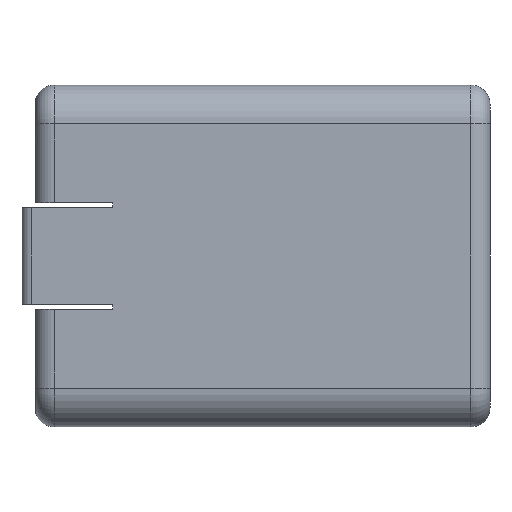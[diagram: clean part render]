
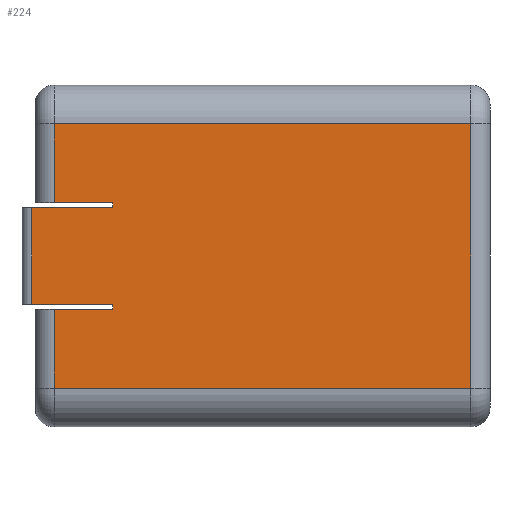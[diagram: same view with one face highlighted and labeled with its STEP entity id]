
A CAD part, front view. The second image highlights one B-rep face of the part: STEP entity #224.
In plain terms, the highlighted planar face has unit normal (0, -1, 0).
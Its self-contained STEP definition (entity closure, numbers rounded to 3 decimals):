
#2 = ORIENTED_EDGE ( 'NONE', *, *, #2229, .T. ) ;
#4 = VECTOR ( 'NONE', #1922, 1000. ) ;
#10 = CARTESIAN_POINT ( 'NONE',  ( 8.064, -15.15, -5. ) ) ;
#41 = AXIS2_PLACEMENT_3D ( 'NONE', #698, #846, #110 ) ;
#66 = VERTEX_POINT ( 'NONE', #239 ) ;
#79 = VECTOR ( 'NONE', #205, 1000. ) ;
#100 = CARTESIAN_POINT ( 'NONE',  ( 46., -15.15, 13.65 ) ) ;
#110 = DIRECTION ( 'NONE',  ( 0., 0., 1. ) ) ;
#117 = DIRECTION ( 'NONE',  ( 0., 0., -1. ) ) ;
#183 = DIRECTION ( 'NONE',  ( -1., 0., 0. ) ) ;
#195 = VECTOR ( 'NONE', #1703, 1000. ) ;
#205 = DIRECTION ( 'NONE',  ( -1., 0., 0. ) ) ;
#224 = ADVANCED_FACE ( 'NONE', ( #865 ), #457, .F. ) ;
#239 = CARTESIAN_POINT ( 'NONE',  ( 2., -15.15, -13.65 ) ) ;
#248 = VECTOR ( 'NONE', #487, 1000. ) ;
#279 = EDGE_CURVE ( 'NONE', #2256, #499, #1870, .T. ) ;
#309 = ORIENTED_EDGE ( 'NONE', *, *, #2440, .T. ) ;
#320 = VERTEX_POINT ( 'NONE', #554 ) ;
#325 = LINE ( 'NONE', #2264, #248 ) ;
#329 = ORIENTED_EDGE ( 'NONE', *, *, #1542, .T. ) ;
#331 = LINE ( 'NONE', #680, #2322 ) ;
#365 = LINE ( 'NONE', #1756, #699 ) ;
#371 = ORIENTED_EDGE ( 'NONE', *, *, #1303, .T. ) ;
#377 = EDGE_CURVE ( 'NONE', #1326, #1760, #942, .T. ) ;
#382 = CARTESIAN_POINT ( 'NONE',  ( 2., -15.15, -5.5 ) ) ;
#389 = CARTESIAN_POINT ( 'NONE',  ( 8.064, -15.15, -5.5 ) ) ;
#399 = LINE ( 'NONE', #2205, #79 ) ;
#403 = LINE ( 'NONE', #1568, #2228 ) ;
#445 = ORIENTED_EDGE ( 'NONE', *, *, #1635, .T. ) ;
#457 = PLANE ( 'NONE',  #41 ) ;
#480 = VERTEX_POINT ( 'NONE', #10 ) ;
#487 = DIRECTION ( 'NONE',  ( 0., 0., -1. ) ) ;
#499 = VERTEX_POINT ( 'NONE', #2375 ) ;
#548 = VERTEX_POINT ( 'NONE', #382 ) ;
#550 = LINE ( 'NONE', #1350, #977 ) ;
#554 = CARTESIAN_POINT ( 'NONE',  ( 45., -15.15, -13.65 ) ) ;
#576 = ORIENTED_EDGE ( 'NONE', *, *, #279, .T. ) ;
#602 = EDGE_CURVE ( 'NONE', #320, #2256, #403, .T. ) ;
#680 = CARTESIAN_POINT ( 'NONE',  ( 2., -15.15, -13.65 ) ) ;
#698 = CARTESIAN_POINT ( 'NONE',  ( 46., -15.15, 17.65 ) ) ;
#699 = VECTOR ( 'NONE', #183, 1000. ) ;
#718 = CARTESIAN_POINT ( 'NONE',  ( 2., -15.15, 5.5 ) ) ;
#735 = EDGE_LOOP ( 'NONE', ( #957, #2, #445, #329, #309, #1774, #371, #1288, #576, #2458, #1994, #1174 ) ) ;
#762 = CARTESIAN_POINT ( 'NONE',  ( 46., -15.15, 5.5 ) ) ;
#783 = EDGE_CURVE ( 'NONE', #499, #1326, #911, .T. ) ;
#846 = DIRECTION ( 'NONE',  ( 0., 1., 0. ) ) ;
#859 = EDGE_CURVE ( 'NONE', #1760, #2310, #550, .T. ) ;
#865 = FACE_OUTER_BOUND ( 'NONE', #735, .T. ) ;
#911 = LINE ( 'NONE', #1907, #1983 ) ;
#942 = LINE ( 'NONE', #762, #195 ) ;
#956 = VERTEX_POINT ( 'NONE', #2491 ) ;
#957 = ORIENTED_EDGE ( 'NONE', *, *, #978, .T. ) ;
#970 = VECTOR ( 'NONE', #2427, 1000. ) ;
#977 = VECTOR ( 'NONE', #1293, 1000. ) ;
#978 = EDGE_CURVE ( 'NONE', #2310, #956, #399, .T. ) ;
#1006 = CARTESIAN_POINT ( 'NONE',  ( 8.064, -15.15, 5.5 ) ) ;
#1048 = LINE ( 'NONE', #1980, #4 ) ;
#1080 = CARTESIAN_POINT ( 'NONE',  ( 8.064, -15.15, 5. ) ) ;
#1132 = LINE ( 'NONE', #1875, #1604 ) ;
#1174 = ORIENTED_EDGE ( 'NONE', *, *, #859, .T. ) ;
#1188 = DIRECTION ( 'NONE',  ( 0., 0., 1. ) ) ;
#1288 = ORIENTED_EDGE ( 'NONE', *, *, #602, .T. ) ;
#1293 = DIRECTION ( 'NONE',  ( 0., 0., -1. ) ) ;
#1303 = EDGE_CURVE ( 'NONE', #66, #320, #1132, .T. ) ;
#1326 = VERTEX_POINT ( 'NONE', #718 ) ;
#1350 = CARTESIAN_POINT ( 'NONE',  ( 8.064, -15.15, 17.65 ) ) ;
#1363 = VERTEX_POINT ( 'NONE', #389 ) ;
#1463 = CARTESIAN_POINT ( 'NONE',  ( -0.327, -15.15, -5. ) ) ;
#1473 = CARTESIAN_POINT ( 'NONE',  ( 45., -15.15, 13.65 ) ) ;
#1542 = EDGE_CURVE ( 'NONE', #480, #1363, #325, .T. ) ;
#1568 = CARTESIAN_POINT ( 'NONE',  ( 45., -15.15, 13.65 ) ) ;
#1604 = VECTOR ( 'NONE', #1885, 1000. ) ;
#1635 = EDGE_CURVE ( 'NONE', #2006, #480, #1048, .T. ) ;
#1703 = DIRECTION ( 'NONE',  ( 1., 0., 0. ) ) ;
#1756 = CARTESIAN_POINT ( 'NONE',  ( 46., -15.15, -5.5 ) ) ;
#1760 = VERTEX_POINT ( 'NONE', #1006 ) ;
#1774 = ORIENTED_EDGE ( 'NONE', *, *, #2244, .T. ) ;
#1870 = LINE ( 'NONE', #100, #970 ) ;
#1875 = CARTESIAN_POINT ( 'NONE',  ( 46., -15.15, -13.65 ) ) ;
#1885 = DIRECTION ( 'NONE',  ( 1., 0., 0. ) ) ;
#1907 = CARTESIAN_POINT ( 'NONE',  ( 2., -15.15, -13.65 ) ) ;
#1910 = LINE ( 'NONE', #1463, #2237 ) ;
#1922 = DIRECTION ( 'NONE',  ( 1., 0., 0. ) ) ;
#1980 = CARTESIAN_POINT ( 'NONE',  ( 46., -15.15, -5. ) ) ;
#1983 = VECTOR ( 'NONE', #117, 1000. ) ;
#1994 = ORIENTED_EDGE ( 'NONE', *, *, #377, .T. ) ;
#2006 = VERTEX_POINT ( 'NONE', #2182 ) ;
#2078 = DIRECTION ( 'NONE',  ( 0., 0., -1. ) ) ;
#2182 = CARTESIAN_POINT ( 'NONE',  ( -0.327, -15.15, -5. ) ) ;
#2205 = CARTESIAN_POINT ( 'NONE',  ( 46., -15.15, 5. ) ) ;
#2228 = VECTOR ( 'NONE', #1188, 1000. ) ;
#2229 = EDGE_CURVE ( 'NONE', #956, #2006, #1910, .T. ) ;
#2237 = VECTOR ( 'NONE', #2466, 1000. ) ;
#2244 = EDGE_CURVE ( 'NONE', #548, #66, #331, .T. ) ;
#2256 = VERTEX_POINT ( 'NONE', #1473 ) ;
#2264 = CARTESIAN_POINT ( 'NONE',  ( 8.064, -15.15, 17.65 ) ) ;
#2310 = VERTEX_POINT ( 'NONE', #1080 ) ;
#2322 = VECTOR ( 'NONE', #2078, 1000. ) ;
#2375 = CARTESIAN_POINT ( 'NONE',  ( 2., -15.15, 13.65 ) ) ;
#2427 = DIRECTION ( 'NONE',  ( -1., 0., 0. ) ) ;
#2440 = EDGE_CURVE ( 'NONE', #1363, #548, #365, .T. ) ;
#2458 = ORIENTED_EDGE ( 'NONE', *, *, #783, .T. ) ;
#2466 = DIRECTION ( 'NONE',  ( 0., 0., -1. ) ) ;
#2491 = CARTESIAN_POINT ( 'NONE',  ( -0.327, -15.15, 5. ) ) ;
